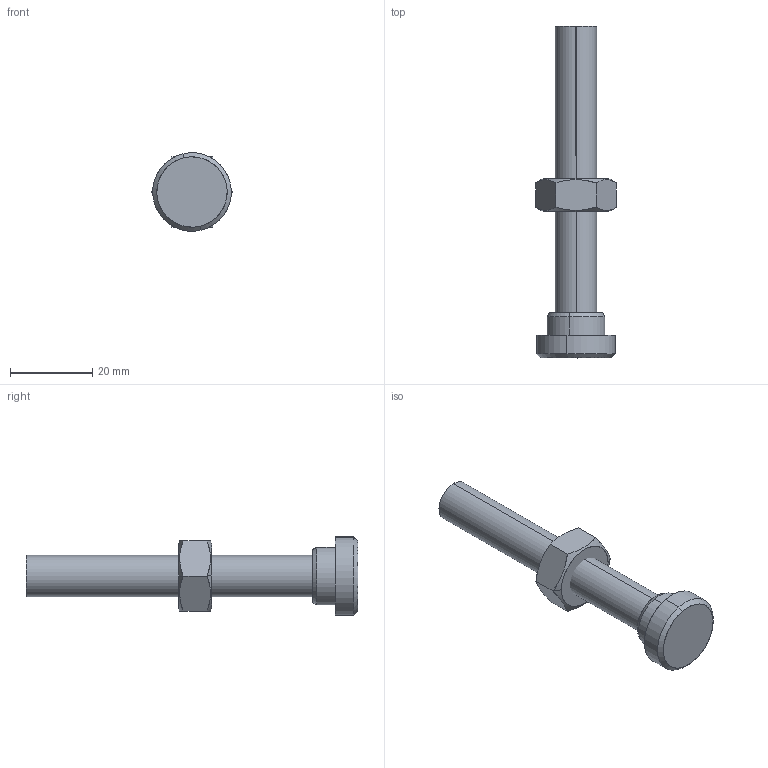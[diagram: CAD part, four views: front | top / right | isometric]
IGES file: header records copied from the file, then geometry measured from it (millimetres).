
Start section: SolidWorks IGES file using analytic representation for surfaces
Global section: file name: C:\Projetos\Ponteiras\PA\PA-M10\PA-M10.IGS; native system: SolidWorks 2011; preprocessor: SolidWorks 2011; author: Usuario; date: 110520.150401; units: millimetre
Bounding box: 19.63 x 80.5 x 19.04 mm (x, y, z)
Surface area: 4957.2 mm2 (no closed solid volume)
Topology: 0 solids, 0 shells, 44 faces, 724 edges, 722 vertices
Faces by surface type: revolution 30, bspline 14
